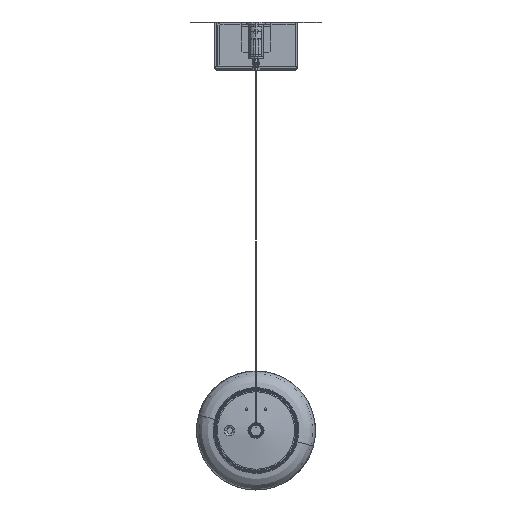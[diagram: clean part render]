
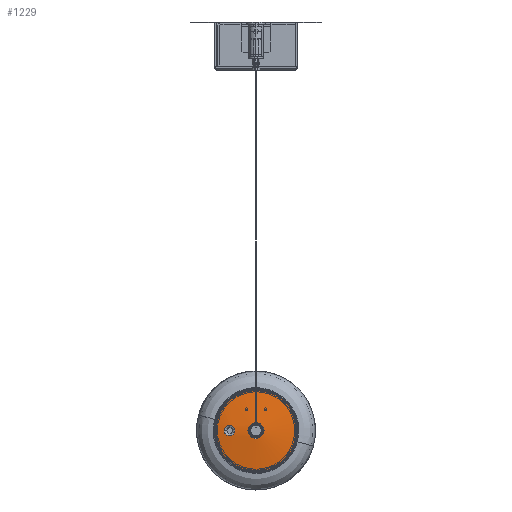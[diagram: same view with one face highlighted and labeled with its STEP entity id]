
A CAD part, left-side view. The second image highlights one B-rep face of the part: STEP entity #1229.
In plain terms, the highlighted free-form (B-spline) face has degree [2, 2] with [9, 5] control points.
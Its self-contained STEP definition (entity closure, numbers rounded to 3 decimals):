
#373=(
BOUNDED_SURFACE()
B_SPLINE_SURFACE(2,2,((#24451,#24452,#24453,#24454,#24455),(#24456,#24457,
#24458,#24459,#24460),(#24461,#24462,#24463,#24464,#24465),(#24466,#24467,
#24468,#24469,#24470),(#24471,#24472,#24473,#24474,#24475),(#24476,#24477,
#24478,#24479,#24480),(#24481,#24482,#24483,#24484,#24485),(#24486,#24487,
#24488,#24489,#24490),(#24491,#24492,#24493,#24494,#24495)),
 .UNSPECIFIED.,.T.,.F.,.F.)
B_SPLINE_SURFACE_WITH_KNOTS((3,2,2,2,3),(3,2,3),(0.,265.296,530.593,
795.889,1061.185),(0.,265.296,530.593),
 .UNSPECIFIED.)
GEOMETRIC_REPRESENTATION_ITEM()
RATIONAL_B_SPLINE_SURFACE(((1.,0.707,1.,0.707,1.),
(0.707,0.5,0.707,0.5,0.707),(1.,0.707,
1.,0.707,1.),(0.707,0.5,0.707,0.5,0.707),
(1.,0.707,1.,0.707,1.),(0.707,0.5,0.707,
0.5,0.707),(1.,0.707,1.,0.707,1.),(0.707,
0.5,0.707,0.5,0.707),(1.,0.707,1.,0.707,
1.)))
REPRESENTATION_ITEM('')
SURFACE()
);
#779=FACE_BOUND('',#3689,.T.);
#780=FACE_BOUND('',#3690,.T.);
#1229=ADVANCED_FACE('',(#2433,#779,#780),#373,.T.);
#2433=FACE_OUTER_BOUND('',#3688,.T.);
#3688=EDGE_LOOP('',(#6103,#6104));
#3689=EDGE_LOOP('',(#6105,#6106));
#3690=EDGE_LOOP('',(#6107,#6108));
#6103=ORIENTED_EDGE('',*,*,#11245,.T.);
#6104=ORIENTED_EDGE('',*,*,#11272,.T.);
#6105=ORIENTED_EDGE('',*,*,#11257,.T.);
#6106=ORIENTED_EDGE('',*,*,#11201,.T.);
#6107=ORIENTED_EDGE('',*,*,#11194,.F.);
#6108=ORIENTED_EDGE('',*,*,#11252,.T.);
#11194=EDGE_CURVE('',#16703,#16704,#15445,.T.);
#11201=EDGE_CURVE('',#16707,#16708,#13702,.T.);
#11245=EDGE_CURVE('',#16705,#16706,#13728,.T.);
#11252=EDGE_CURVE('',#16703,#16704,#15469,.T.);
#11257=EDGE_CURVE('',#16708,#16707,#13735,.T.);
#11272=EDGE_CURVE('',#16706,#16705,#13748,.T.);
#13702=(
BOUNDED_CURVE()
B_SPLINE_CURVE(2,(#24978,#24979,#24980,#24981,#24982),.UNSPECIFIED.,.F.,
 .F.)
B_SPLINE_CURVE_WITH_KNOTS((3,2,3),(-26.999,-13.499,
0.),.UNSPECIFIED.)
CURVE()
GEOMETRIC_REPRESENTATION_ITEM()
RATIONAL_B_SPLINE_CURVE((1.,0.707,1.,0.707,1.))
REPRESENTATION_ITEM('')
);
#13728=(
BOUNDED_CURVE()
B_SPLINE_CURVE(2,(#25116,#25117,#25118,#25119,#25120),.UNSPECIFIED.,.F.,
 .F.)
B_SPLINE_CURVE_WITH_KNOTS((3,2,3),(-137.63,-68.815,
0.),.UNSPECIFIED.)
CURVE()
GEOMETRIC_REPRESENTATION_ITEM()
RATIONAL_B_SPLINE_CURVE((1.,0.707,1.,0.707,1.))
REPRESENTATION_ITEM('')
);
#13735=(
BOUNDED_CURVE()
B_SPLINE_CURVE(2,(#25173,#25174,#25175,#25176,#25177),.UNSPECIFIED.,.F.,
 .F.)
B_SPLINE_CURVE_WITH_KNOTS((3,2,3),(-26.999,-13.499,
0.),.UNSPECIFIED.)
CURVE()
GEOMETRIC_REPRESENTATION_ITEM()
RATIONAL_B_SPLINE_CURVE((1.,0.707,1.,0.707,1.))
REPRESENTATION_ITEM('')
);
#13748=(
BOUNDED_CURVE()
B_SPLINE_CURVE(2,(#25236,#25237,#25238,#25239,#25240),.UNSPECIFIED.,.F.,
 .F.)
B_SPLINE_CURVE_WITH_KNOTS((3,2,3),(-137.63,-68.815,
0.),.UNSPECIFIED.)
CURVE()
GEOMETRIC_REPRESENTATION_ITEM()
RATIONAL_B_SPLINE_CURVE((1.,0.707,1.,0.707,1.))
REPRESENTATION_ITEM('')
);
#15445=B_SPLINE_CURVE_WITH_KNOTS('',3,(#24946,#24947,#24948,#24949,#24950,
#24951,#24952),.UNSPECIFIED.,.F.,.F.,(4,1,1,1,4),(0.,2.177,4.353,
8.707,13.06),.UNSPECIFIED.);
#15469=B_SPLINE_CURVE_WITH_KNOTS('',3,(#25143,#25144,#25145,#25146,#25147,
#25148,#25149,#25150),.UNSPECIFIED.,.F.,.F.,(4,1,1,1,1,4),(-17.615,
-15.413,-13.211,-8.807,-4.404,
0.),.UNSPECIFIED.);
#16703=VERTEX_POINT('',#24868);
#16704=VERTEX_POINT('',#24869);
#16705=VERTEX_POINT('',#24870);
#16706=VERTEX_POINT('',#24871);
#16707=VERTEX_POINT('',#24872);
#16708=VERTEX_POINT('',#24873);
#24451=CARTESIAN_POINT('',(-184.107,0.,-512.393));
#24452=CARTESIAN_POINT('',(-15.214,0.164,-512.393));
#24453=CARTESIAN_POINT('',(-15.214,0.164,-343.5));
#24454=CARTESIAN_POINT('',(-15.214,0.164,-174.607));
#24455=CARTESIAN_POINT('',(-184.107,0.,-174.607));
#24456=CARTESIAN_POINT('',(-184.107,0.,-512.393));
#24457=CARTESIAN_POINT('',(-15.378,169.057,-512.393));
#24458=CARTESIAN_POINT('',(-15.378,169.057,-343.5));
#24459=CARTESIAN_POINT('',(-15.378,169.057,-174.607));
#24460=CARTESIAN_POINT('',(-184.107,0.,-174.607));
#24461=CARTESIAN_POINT('',(-184.107,0.,-512.393));
#24462=CARTESIAN_POINT('',(-184.271,168.893,-512.393));
#24463=CARTESIAN_POINT('',(-184.271,168.893,-343.5));
#24464=CARTESIAN_POINT('',(-184.271,168.893,-174.607));
#24465=CARTESIAN_POINT('',(-184.107,0.,-174.607));
#24466=CARTESIAN_POINT('',(-184.107,0.,-512.393));
#24467=CARTESIAN_POINT('',(-353.164,168.729,-512.393));
#24468=CARTESIAN_POINT('',(-353.164,168.729,-343.5));
#24469=CARTESIAN_POINT('',(-353.164,168.729,-174.607));
#24470=CARTESIAN_POINT('',(-184.107,0.,-174.607));
#24471=CARTESIAN_POINT('',(-184.107,0.,-512.393));
#24472=CARTESIAN_POINT('',(-353.,-0.164,-512.393));
#24473=CARTESIAN_POINT('',(-353.,-0.164,-343.5));
#24474=CARTESIAN_POINT('',(-353.,-0.164,-174.607));
#24475=CARTESIAN_POINT('',(-184.107,0.,-174.607));
#24476=CARTESIAN_POINT('',(-184.107,0.,-512.393));
#24477=CARTESIAN_POINT('',(-352.836,-169.057,-512.393));
#24478=CARTESIAN_POINT('',(-352.836,-169.057,-343.5));
#24479=CARTESIAN_POINT('',(-352.836,-169.057,-174.607));
#24480=CARTESIAN_POINT('',(-184.107,0.,-174.607));
#24481=CARTESIAN_POINT('',(-184.107,0.,-512.393));
#24482=CARTESIAN_POINT('',(-183.943,-168.893,-512.393));
#24483=CARTESIAN_POINT('',(-183.943,-168.893,-343.5));
#24484=CARTESIAN_POINT('',(-183.943,-168.893,-174.607));
#24485=CARTESIAN_POINT('',(-184.107,0.,-174.607));
#24486=CARTESIAN_POINT('',(-184.107,0.,-512.393));
#24487=CARTESIAN_POINT('',(-15.05,-168.729,-512.393));
#24488=CARTESIAN_POINT('',(-15.05,-168.729,-343.5));
#24489=CARTESIAN_POINT('',(-15.05,-168.729,-174.607));
#24490=CARTESIAN_POINT('',(-184.107,0.,-174.607));
#24491=CARTESIAN_POINT('',(-184.107,0.,-512.393));
#24492=CARTESIAN_POINT('',(-15.214,0.164,-512.393));
#24493=CARTESIAN_POINT('',(-15.214,0.164,-343.5));
#24494=CARTESIAN_POINT('',(-15.214,0.164,-174.607));
#24495=CARTESIAN_POINT('',(-184.107,0.,-174.607));
#24868=CARTESIAN_POINT('',(-350.857,26.818,-343.5));
#24869=CARTESIAN_POINT('',(-352.009,18.16,-345.484));
#24870=CARTESIAN_POINT('',(-349.458,0.,-309.093));
#24871=CARTESIAN_POINT('',(-349.458,0.,-377.907));
#24872=CARTESIAN_POINT('',(-352.865,-6.75,-343.5));
#24873=CARTESIAN_POINT('',(-352.865,6.75,-343.5));
#24946=CARTESIAN_POINT('',(-350.857,26.818,-343.5));
#24947=CARTESIAN_POINT('',(-350.857,26.818,-344.184));
#24948=CARTESIAN_POINT('',(-350.9,26.501,-345.548));
#24949=CARTESIAN_POINT('',(-351.132,24.758,-347.745));
#24950=CARTESIAN_POINT('',(-351.617,21.118,-348.58));
#24951=CARTESIAN_POINT('',(-351.931,18.753,-346.711));
#24952=CARTESIAN_POINT('',(-352.009,18.16,-345.484));
#24978=CARTESIAN_POINT('',(-352.865,-6.75,-343.5));
#24979=CARTESIAN_POINT('',(-352.865,-6.75,-350.25));
#24980=CARTESIAN_POINT('',(-352.865,0.,-350.25));
#24981=CARTESIAN_POINT('',(-352.865,6.75,-350.25));
#24982=CARTESIAN_POINT('',(-352.865,6.75,-343.5));
#25116=CARTESIAN_POINT('',(-349.458,0.,-309.093));
#25117=CARTESIAN_POINT('',(-349.458,34.407,-309.093));
#25118=CARTESIAN_POINT('',(-349.458,34.407,-343.5));
#25119=CARTESIAN_POINT('',(-349.458,34.407,-377.907));
#25120=CARTESIAN_POINT('',(-349.458,0.,-377.907));
#25143=CARTESIAN_POINT('',(-350.857,26.818,-343.5));
#25144=CARTESIAN_POINT('',(-350.857,26.818,-342.816));
#25145=CARTESIAN_POINT('',(-350.9,26.501,-341.453));
#25146=CARTESIAN_POINT('',(-351.132,24.758,-339.256));
#25147=CARTESIAN_POINT('',(-351.617,21.12,-338.42));
#25148=CARTESIAN_POINT('',(-352.088,17.564,-341.221));
#25149=CARTESIAN_POINT('',(-352.088,17.568,-344.258));
#25150=CARTESIAN_POINT('',(-352.009,18.16,-345.484));
#25173=CARTESIAN_POINT('',(-352.865,6.75,-343.5));
#25174=CARTESIAN_POINT('',(-352.865,6.75,-336.75));
#25175=CARTESIAN_POINT('',(-352.865,0.,-336.75));
#25176=CARTESIAN_POINT('',(-352.865,-6.75,-336.75));
#25177=CARTESIAN_POINT('',(-352.865,-6.75,-343.5));
#25236=CARTESIAN_POINT('',(-349.458,0.,-377.907));
#25237=CARTESIAN_POINT('',(-349.458,-34.407,-377.907));
#25238=CARTESIAN_POINT('',(-349.458,-34.407,-343.5));
#25239=CARTESIAN_POINT('',(-349.458,-34.407,-309.093));
#25240=CARTESIAN_POINT('',(-349.458,0.,-309.093));
